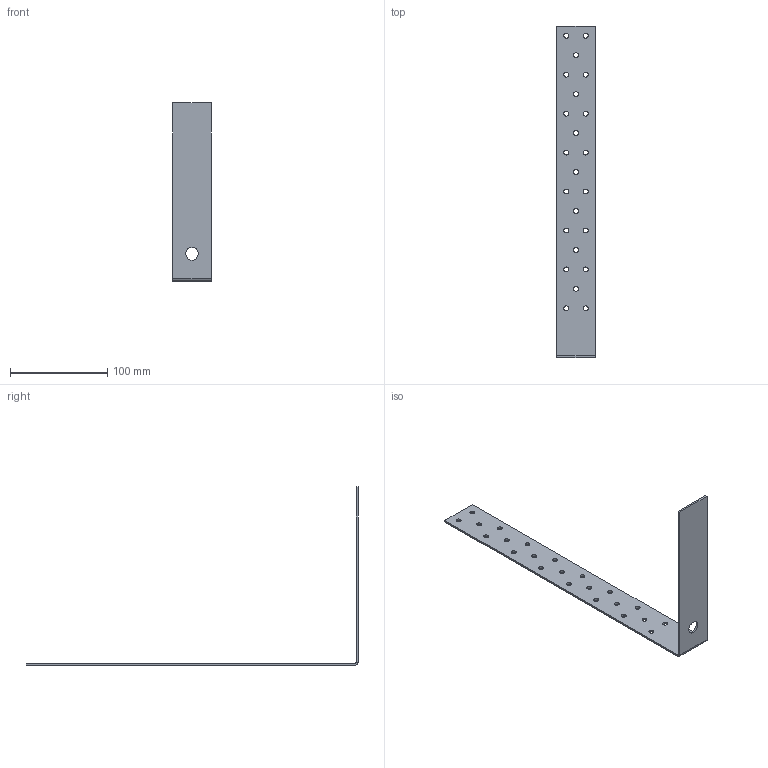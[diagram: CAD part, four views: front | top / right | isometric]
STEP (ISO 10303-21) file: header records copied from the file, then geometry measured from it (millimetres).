
FILE_DESCRIPTION (( 'STEP AP203' ), '1' );
FILE_NAME ('110405.STEP', '2020-01-20T12:24:10', ( '' ), ( '' ), 'SwSTEP 2.0', 'SolidWorks 2013', '' );
FILE_SCHEMA (( 'CONFIG_CONTROL_DESIGN' ));
Length unit declared in the file: millimetre
Products named in the file (1): 110405
Bounding box: 40 x 341 x 183 mm (x, y, z)
Volume: 40531.9 mm3; surface area: 43581.1 mm2
Topology: 1 solids, 1 shells, 62 faces, 172 edges, 112 vertices
Faces by surface type: cylinder 50, plane 12
Entity records: 2205 total; most frequent: DIRECTION 398, CARTESIAN_POINT 347, ORIENTED_EDGE 344, EDGE_CURVE 172, AXIS2_PLACEMENT_3D 163, VERTEX_POINT 112, EDGE_LOOP 110, CIRCLE 100
